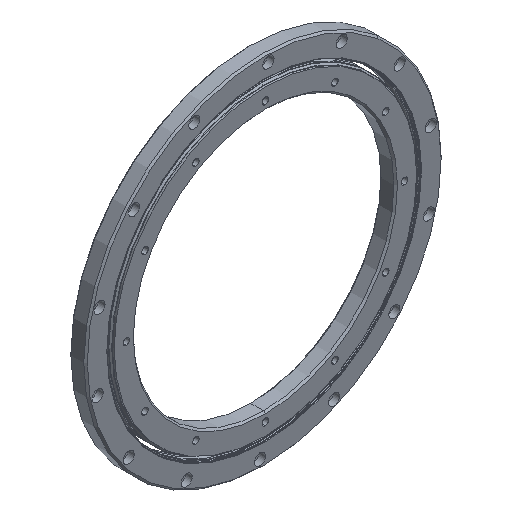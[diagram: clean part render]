
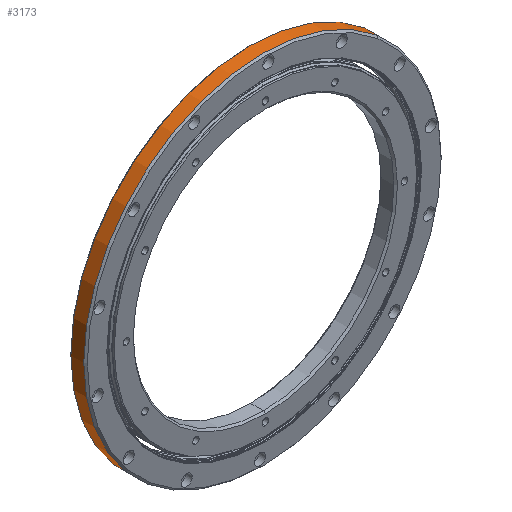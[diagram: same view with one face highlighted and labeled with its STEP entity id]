
A CAD part, isometric view. The second image highlights one B-rep face of the part: STEP entity #3173.
In plain terms, the highlighted cylindrical face has radius 152.4 mm (diameter 304.8 mm), a partial arc.
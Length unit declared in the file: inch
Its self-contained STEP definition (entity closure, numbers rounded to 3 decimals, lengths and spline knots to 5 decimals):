
#363 = VERTEX_POINT ( 'NONE', #1873 ) ;
#625 = AXIS2_PLACEMENT_3D ( 'NONE', #2350, #4218, #3788 ) ;
#818 = ORIENTED_EDGE ( 'NONE', *, *, #3158, .F. ) ;
#1006 = CARTESIAN_POINT ( 'NONE',  ( 0., 0.09843, 0. ) ) ;
#1107 = AXIS2_PLACEMENT_3D ( 'NONE', #4971, #2163, #5449 ) ;
#1499 = DIRECTION ( 'NONE',  ( 0., 0., -1. ) ) ;
#1559 = CYLINDRICAL_SURFACE ( 'NONE', #625, 6. ) ;
#1617 = ORIENTED_EDGE ( 'NONE', *, *, #4262, .T. ) ;
#1705 = LINE ( 'NONE', #5152, #3018 ) ;
#1786 = CIRCLE ( 'NONE', #1107, 6. ) ;
#1864 = DIRECTION ( 'NONE',  ( 0., -1., 0. ) ) ;
#1873 = CARTESIAN_POINT ( 'NONE',  ( 0., 0.09843, 6. ) ) ;
#1911 = AXIS2_PLACEMENT_3D ( 'NONE', #1006, #4351, #1499 ) ;
#1996 = LINE ( 'NONE', #3327, #4516 ) ;
#2035 = CIRCLE ( 'NONE', #1911, 6. ) ;
#2087 = EDGE_CURVE ( 'NONE', #2827, #363, #2035, .T. ) ;
#2163 = DIRECTION ( 'NONE',  ( 0., -1., 0. ) ) ;
#2350 = CARTESIAN_POINT ( 'NONE',  ( 0., 0., 0. ) ) ;
#2827 = VERTEX_POINT ( 'NONE', #4900 ) ;
#2935 = EDGE_CURVE ( 'NONE', #6062, #6165, #1786, .T. ) ;
#3018 = VECTOR ( 'NONE', #6112, 39.37008 ) ;
#3158 = EDGE_CURVE ( 'NONE', #6062, #363, #1705, .T. ) ;
#3173 = ADVANCED_FACE ( 'NONE', ( #4230 ), #1559, .T. ) ;
#3327 = CARTESIAN_POINT ( 'NONE',  ( 0., 0., -6. ) ) ;
#3788 = DIRECTION ( 'NONE',  ( 0., 0., -1. ) ) ;
#3982 = EDGE_LOOP ( 'NONE', ( #818, #6210, #1617, #4111 ) ) ;
#4111 = ORIENTED_EDGE ( 'NONE', *, *, #2087, .T. ) ;
#4218 = DIRECTION ( 'NONE',  ( 0., -1., 0. ) ) ;
#4230 = FACE_OUTER_BOUND ( 'NONE', #3982, .T. ) ;
#4262 = EDGE_CURVE ( 'NONE', #6165, #2827, #1996, .T. ) ;
#4351 = DIRECTION ( 'NONE',  ( 0., 1., 0. ) ) ;
#4516 = VECTOR ( 'NONE', #1864, 39.37008 ) ;
#4900 = CARTESIAN_POINT ( 'NONE',  ( 0., 0.09843, -6. ) ) ;
#4971 = CARTESIAN_POINT ( 'NONE',  ( 0., 0.5315, 0. ) ) ;
#5004 = CARTESIAN_POINT ( 'NONE',  ( 0., 0.5315, 6. ) ) ;
#5152 = CARTESIAN_POINT ( 'NONE',  ( 0., 0., 6. ) ) ;
#5449 = DIRECTION ( 'NONE',  ( 0., 0., -1. ) ) ;
#6059 = CARTESIAN_POINT ( 'NONE',  ( 0., 0.5315, -6. ) ) ;
#6062 = VERTEX_POINT ( 'NONE', #5004 ) ;
#6112 = DIRECTION ( 'NONE',  ( 0., -1., 0. ) ) ;
#6165 = VERTEX_POINT ( 'NONE', #6059 ) ;
#6210 = ORIENTED_EDGE ( 'NONE', *, *, #2935, .T. ) ;
